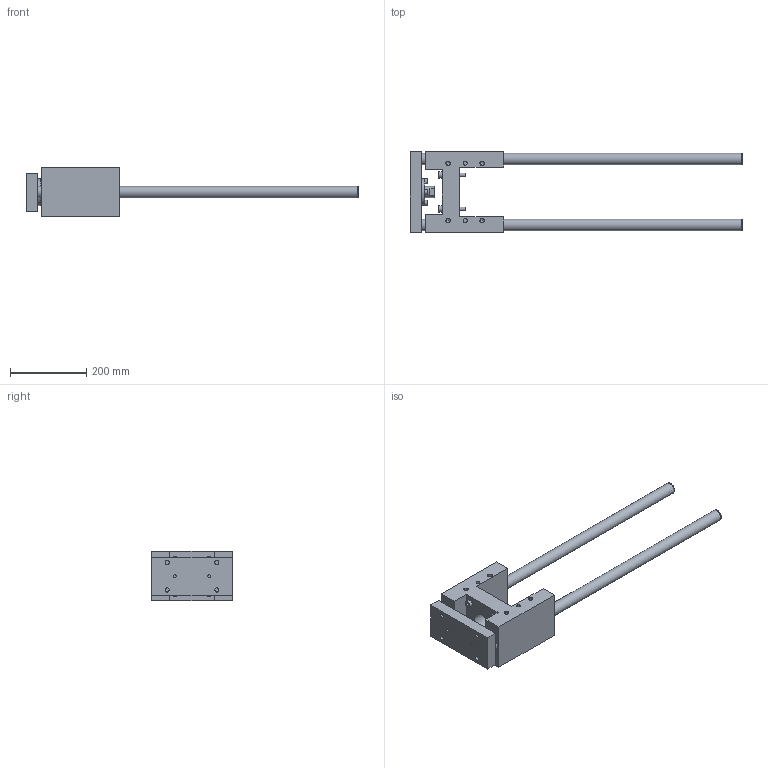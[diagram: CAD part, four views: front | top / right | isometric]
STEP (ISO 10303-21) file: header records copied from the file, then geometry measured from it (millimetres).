
FILE_DESCRIPTION( ( 'STEP AP214' ), '1' );
FILE_NAME( 'U:/Etudes/Top Solid/BIBLIO 3D AVM/TOP/PNEUMATIQUE/GUIDAGES/Type 32 (en H)/R_Renforcée/329R9130.step', '2005-05-27T09:22:49', ( ' ' ), ( ' ' ), 'XStep 1.0', ' ', ' ' );
FILE_SCHEMA( ( 'automotive_design' ) );
Length unit declared in the file: metre
Products named in the file (2): 1; 2
Bounding box: 869 x 213 x 129 mm (x, y, z)
Volume: 4443065.1 mm3; surface area: 494678 mm2
Topology: 2 solids, 7 shells, 207 faces, 460 edges, 303 vertices
Faces by surface type: plane 118, cylinder 68, cone 21
Full cylindrical faces by diameter (mm): 8 x10, 8.5 x4, 10 x10, 10.106 x12, 11 x8, 13 x4, 16 x4, 18 x4, 18.376 x2, 29 x1, 30 x4, 32 x1, 42 x1, 45 x1, 55 x1, 70 x1
Entity records: 6989 total; most frequent: CARTESIAN_POINT 1089, DIRECTION 880, ORIENTED_EDGE 678, EDGE_LOOP 360, AXIS2_PLACEMENT_3D 340, EDGE_CURVE 339, VERTEX_POINT 277, FACE_OUTER_BOUND 275
